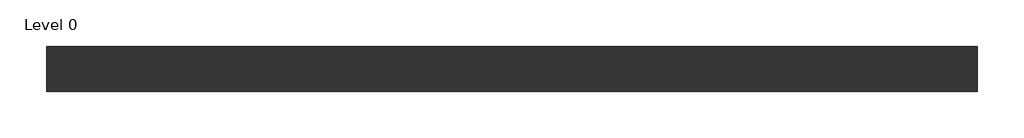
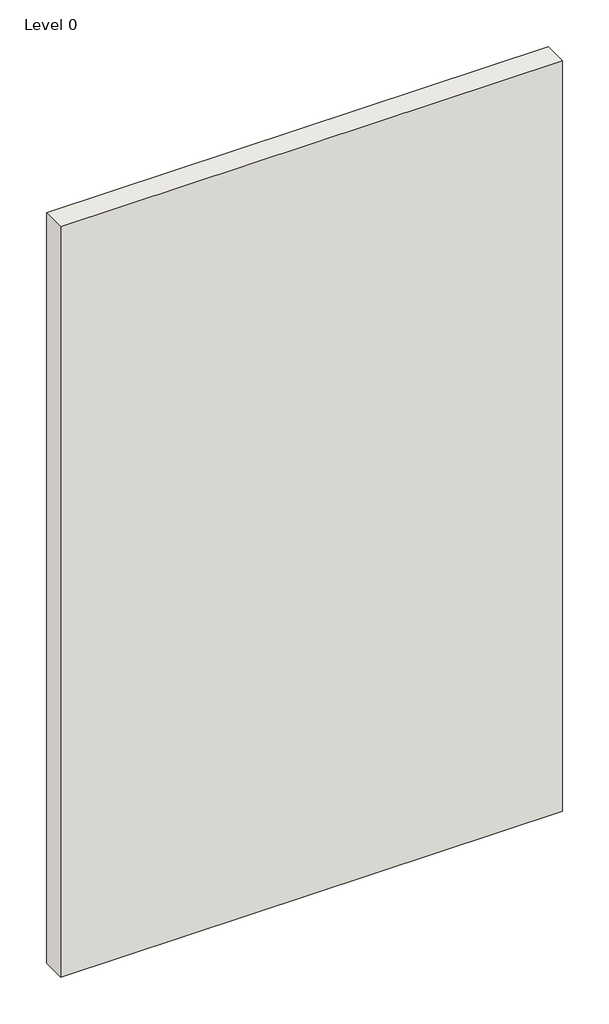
# One storey: 1 wall.
"""IFC4 building model written with IfcOpenShell, lengths in millimetres."""

from ifc_helpers import new_model, si_unit, origin, origin_with_axes, place, context, project, spatial, polyline, outline, extrude, element, save

model = new_model("IFC4")

# Units and contexts
model_context = context("Model", 3, world=origin())
ifc_project = project(units=[si_unit("LENGTHUNIT", "METRE", prefix="MILLI")], contexts=[model_context])

# Site, building, storey
site = spatial("IfcSite", under=ifc_project)
building = spatial("IfcBuilding", under=site)
storey = spatial("IfcBuildingStorey", under=building, Name="Level 0", Elevation=0.0)

# Wall
placement = place(None, origin())
element("IfcWall", 1, ObjectType="A046007 - GypWall Classic", at=placement, inside=storey, context=model_context, shape_type="SweptSolid", body=[
    extrude(outline(polyline([(1155.997948, 479.7669953), (-1944.002052, 479.7669953), (-1944.002052, 630.7669953), (1155.997948, 630.7669953), (1155.997948, 479.7669953)])), origin_with_axes(), (0.0, 0.0, 1.0), 4900.0),
])

save(model, "model.ifc")
